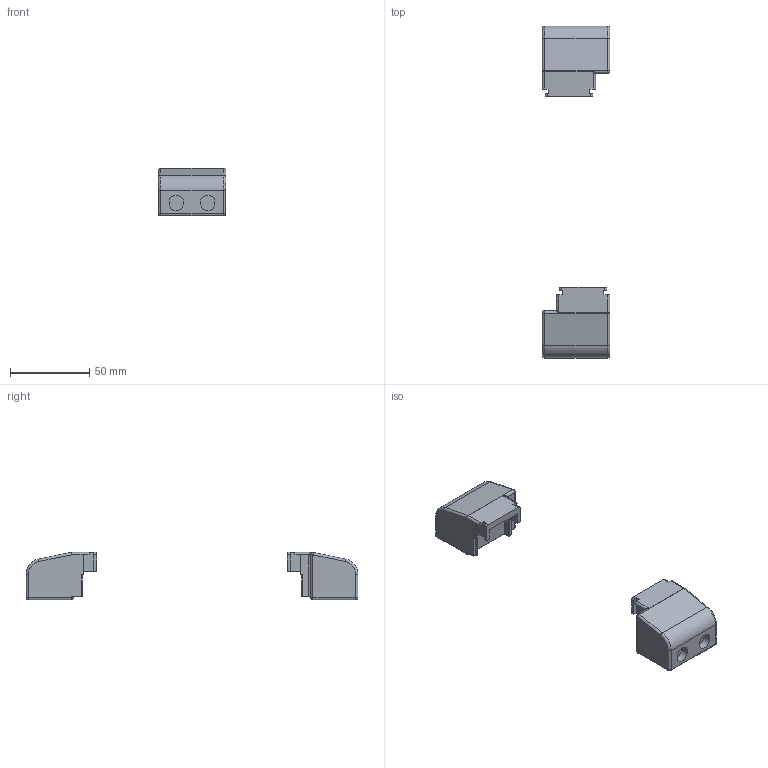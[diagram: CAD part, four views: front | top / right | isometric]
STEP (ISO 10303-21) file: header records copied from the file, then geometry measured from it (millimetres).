
FILE_DESCRIPTION((''),'2;1');
FILE_NAME('DEWI_SR-STD_DMEC_ASSY_150','2015-12-16T',('emanuel.wild'),(''),'PRO/ENGINEER BY PARAMETRIC TECHNOLOGY CORPORATION, 2015200','PRO/ENGINEER BY PARAMETRIC TECHNOLOGY CORPORATION, 2015200','');
FILE_SCHEMA(('AUTOMOTIVE_DESIGN { 1 0 10303 214 1 1 1 1 }'));
Length unit declared in the file: millimetre
Products named in the file (2): DEWI_SR-STD_DMEC; DEWI_SR-STD_DMEC_ASSY_150
Assembly tree (2 placements, depth 2):
  DEWI_SR-STD_DMEC_ASSY_150
    DEWI_SR-STD_DMEC  x2
Bounding box: 42.8 x 210 x 29.8 mm (x, y, z)
Volume: 66408.4 mm3; surface area: 18943.6 mm2
Topology: 2 solids, 2 shells, 196 faces, 504 edges, 316 vertices
Faces by surface type: plane 112, cylinder 58, bspline 12, sphere 8, torus 6
Entity records: 3847 total; most frequent: CARTESIAN_POINT 770, DIRECTION 504, ORIENTED_EDGE 504, EDGE_CURVE 252, VECTOR 180, LINE 180, AXIS2_PLACEMENT_3D 162, VERTEX_POINT 158
